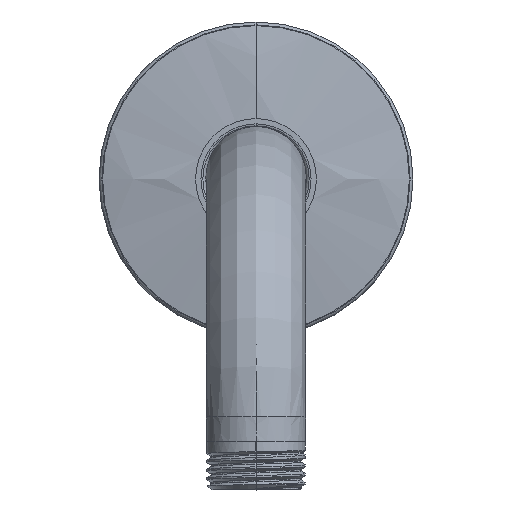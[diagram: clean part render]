
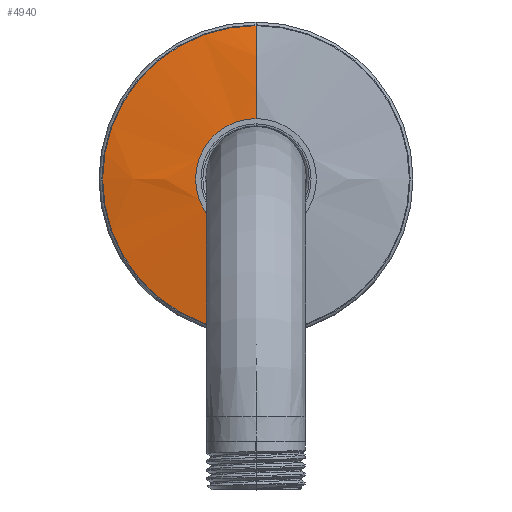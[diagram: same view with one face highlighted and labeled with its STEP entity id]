
A CAD part, top view. The second image highlights one B-rep face of the part: STEP entity #4940.
In plain terms, the highlighted free-form (B-spline) face has degree [3, 3] with [7, 4] control points.
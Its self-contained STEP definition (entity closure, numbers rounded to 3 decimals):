
#4646=CARTESIAN_POINT('',(0.,7.701,0.));
#4647=DIRECTION('',(0.,1.,0.));
#4648=DIRECTION('',(0.,0.,1.));
#4649=AXIS2_PLACEMENT_3D('',#4646,#4647,#4648);
#4656=CARTESIAN_POINT('',(0.,-59.986,-13.908));
#4657=DIRECTION('',(1.,0.,0.));
#4658=DIRECTION('',(0.,0.967,-0.255));
#4659=AXIS2_PLACEMENT_3D('',#4656,#4657,#4658);
#4661=CARTESIAN_POINT('',(0.,-59.986,13.908));
#4662=DIRECTION('',(-1.,0.,0.));
#4663=DIRECTION('',(0.,0.967,0.255));
#4664=AXIS2_PLACEMENT_3D('',#4661,#4662,#4663);
#4808=CARTESIAN_POINT('',(0.,10.,0.));
#4809=DIRECTION('',(0.,-1.,0.));
#4810=DIRECTION('',(0.,0.,-1.));
#4811=AXIS2_PLACEMENT_3D('',#4808,#4809,#4810);
#4847=CARTESIAN_POINT('',(0.,10.,-12.5));
#4848=CARTESIAN_POINT('',(0.,10.,12.5));
#4849=VERTEX_POINT('',#4847);
#4850=VERTEX_POINT('',#4848);
#4855=CARTESIAN_POINT('',(0.,7.701,-31.755));
#4856=CARTESIAN_POINT('',(0.,7.701,31.755));
#4857=VERTEX_POINT('',#4855);
#4858=VERTEX_POINT('',#4856);
#4902=CARTESIAN_POINT('',(-0.76,9.991,
-12.087));
#4903=CARTESIAN_POINT('',(-1.185,10.165,
-18.839));
#4904=CARTESIAN_POINT('',(-1.607,9.362,
-25.546));
#4905=CARTESIAN_POINT('',(-2.018,7.601,
-32.068));
#4906=CARTESIAN_POINT('',(6.678,9.991,-12.555));
#4907=CARTESIAN_POINT('',(10.408,10.165,-19.569));
#4908=CARTESIAN_POINT('',(14.114,9.362,-26.535));
#4909=CARTESIAN_POINT('',(17.717,7.601,-33.309));
#4910=CARTESIAN_POINT('',(12.111,9.991,-7.453));
#4911=CARTESIAN_POINT('',(18.877,10.165,-11.617));
#4912=CARTESIAN_POINT('',(25.597,9.362,-15.752));
#4913=CARTESIAN_POINT('',(32.131,7.601,-19.773));
#4914=CARTESIAN_POINT('',(12.111,9.991,0.));
#4915=CARTESIAN_POINT('',(18.877,10.165,0.));
#4916=CARTESIAN_POINT('',(25.597,9.362,0.));
#4917=CARTESIAN_POINT('',(32.131,7.601,0.));
#4918=CARTESIAN_POINT('',(12.111,9.991,7.453));
#4919=CARTESIAN_POINT('',(18.877,10.165,11.617));
#4920=CARTESIAN_POINT('',(25.597,9.362,15.752));
#4921=CARTESIAN_POINT('',(32.131,7.601,19.773));
#4922=CARTESIAN_POINT('',(6.678,9.991,12.555));
#4923=CARTESIAN_POINT('',(10.408,10.165,19.569));
#4924=CARTESIAN_POINT('',(14.114,9.362,26.535));
#4925=CARTESIAN_POINT('',(17.717,7.601,33.309));
#4926=CARTESIAN_POINT('',(-0.76,9.991,
12.087));
#4927=CARTESIAN_POINT('',(-1.185,10.165,18.839));
#4928=CARTESIAN_POINT('',(-1.607,9.362,25.546));
#4929=CARTESIAN_POINT('',(-2.018,7.601,32.068));
#4930=(BOUNDED_SURFACE()B_SPLINE_SURFACE(3,3,((#4902,#4903,#4904,#4905),(#4906,
#4907,#4908,#4909),(#4910,#4911,#4912,#4913),(#4914,#4915,#4916,#4917),(#4918,
#4919,#4920,#4921),(#4922,#4923,#4924,#4925),(#4926,#4927,#4928,#4929)),
.UNSPECIFIED.,.F.,.F.,.F.)B_SPLINE_SURFACE_WITH_KNOTS((4,3,4),(4,4),(0.,1.,
2.),(0.,1.),.UNSPECIFIED.)GEOMETRIC_REPRESENTATION_ITEM()RATIONAL_B_SPLINE_SURFACE(((1.193,1.185,1.185,1.193),(
0.942,0.936,0.936,0.942),(
0.942,0.936,0.936,0.942),(
1.193,1.185,1.185,1.193),(
0.942,0.936,0.936,0.942),(
0.942,0.936,0.936,0.942),(
1.193,1.185,1.185,1.193)))REPRESENTATION_ITEM('')SURFACE());
#4931=ORIENTED_EDGE('',*,*,#4892,.F.);
#4933=ORIENTED_EDGE('',*,*,#4932,.T.);
#4935=ORIENTED_EDGE('',*,*,#4934,.F.);
#4937=ORIENTED_EDGE('',*,*,#4936,.F.);
#4938=EDGE_LOOP('',(#4931,#4933,#4935,#4937));
#4939=FACE_OUTER_BOUND('',#4938,.F.);
#4940=ADVANCED_FACE('',(#4939),#4930,.T.);
#4650=CIRCLE('',#4649,31.755);
#4660=CIRCLE('',#4659,70.);
#4665=CIRCLE('',#4664,70.);
#4812=CIRCLE('',#4811,12.5);
#4892=EDGE_CURVE('',#4858,#4857,#4650,.T.);
#4932=EDGE_CURVE('',#4858,#4850,#4665,.T.);
#4934=EDGE_CURVE('',#4849,#4850,#4812,.T.);
#4936=EDGE_CURVE('',#4857,#4849,#4660,.T.);
